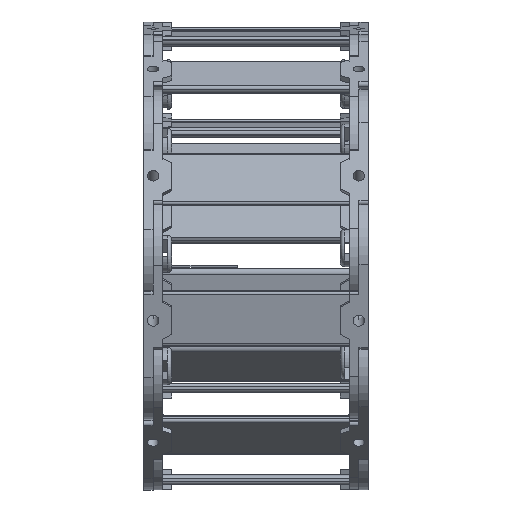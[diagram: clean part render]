
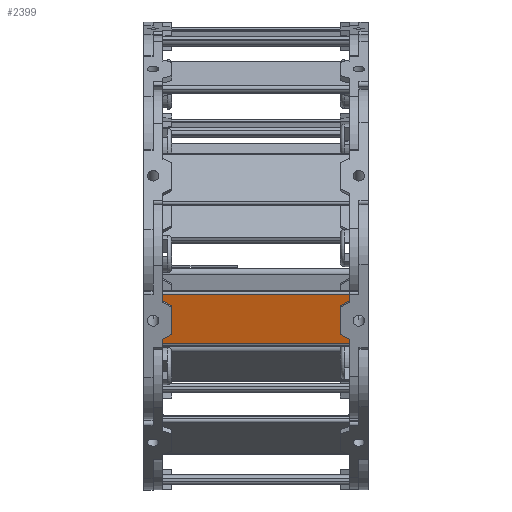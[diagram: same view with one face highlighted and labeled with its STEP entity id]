
A CAD part, front view. The second image highlights one B-rep face of the part: STEP entity #2399.
In plain terms, the highlighted planar face has unit normal (0, -0.97, -0.244) as drawn and (1, 0, 0) by its records, which use the part's own axes.
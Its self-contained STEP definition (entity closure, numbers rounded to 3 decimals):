
#2360=CARTESIAN_POINT('',(48.742,50.631,0.0));
#2361=DIRECTION('',(1.0,0.0,0.0));
#2362=DIRECTION('',(0.0,0.0,-1.0));
#2363=AXIS2_PLACEMENT_3D('',#2360,#2361,#2362);
#2364=PLANE('',#2363);
#2365=CARTESIAN_POINT('',(48.742,50.631,100.0));
#2366=VERTEX_POINT('',#2365);
#2367=CARTESIAN_POINT('',(48.742,23.635,100.0));
#2368=VERTEX_POINT('',#2367);
#2369=CARTESIAN_POINT('',(48.742,50.631,100.0));
#2370=DIRECTION('',(0.0,-1.0,0.0));
#2371=VECTOR('',#2370,26.996);
#2372=LINE('',#2369,#2371);
#2373=EDGE_CURVE('',#2366,#2368,#2372,.T.);
#2374=ORIENTED_EDGE('',*,*,#2373,.T.);
#2375=CARTESIAN_POINT('',(48.742,23.635,0.0));
#2376=VERTEX_POINT('',#2375);
#2377=CARTESIAN_POINT('',(48.742,23.635,0.0));
#2378=DIRECTION('',(0.0,0.0,1.0));
#2379=VECTOR('',#2378,100.0);
#2380=LINE('',#2377,#2379);
#2381=EDGE_CURVE('',#2376,#2368,#2380,.T.);
#2382=ORIENTED_EDGE('',*,*,#2381,.F.);
#2383=CARTESIAN_POINT('',(48.742,50.631,0.0));
#2384=VERTEX_POINT('',#2383);
#2385=CARTESIAN_POINT('',(48.742,23.635,0.0));
#2386=DIRECTION('',(0.0,1.0,0.0));
#2387=VECTOR('',#2386,26.996);
#2388=LINE('',#2385,#2387);
#2389=EDGE_CURVE('',#2376,#2384,#2388,.T.);
#2390=ORIENTED_EDGE('',*,*,#2389,.T.);
#2391=CARTESIAN_POINT('',(48.742,50.631,0.0));
#2392=DIRECTION('',(0.0,0.0,1.0));
#2393=VECTOR('',#2392,100.0);
#2394=LINE('',#2391,#2393);
#2395=EDGE_CURVE('',#2384,#2366,#2394,.T.);
#2396=ORIENTED_EDGE('',*,*,#2395,.T.);
#2397=EDGE_LOOP('',(#2374,#2382,#2390,#2396));
#2398=FACE_OUTER_BOUND('',#2397,.T.);
#2399=ADVANCED_FACE('',(#2398),#2364,.T.);
